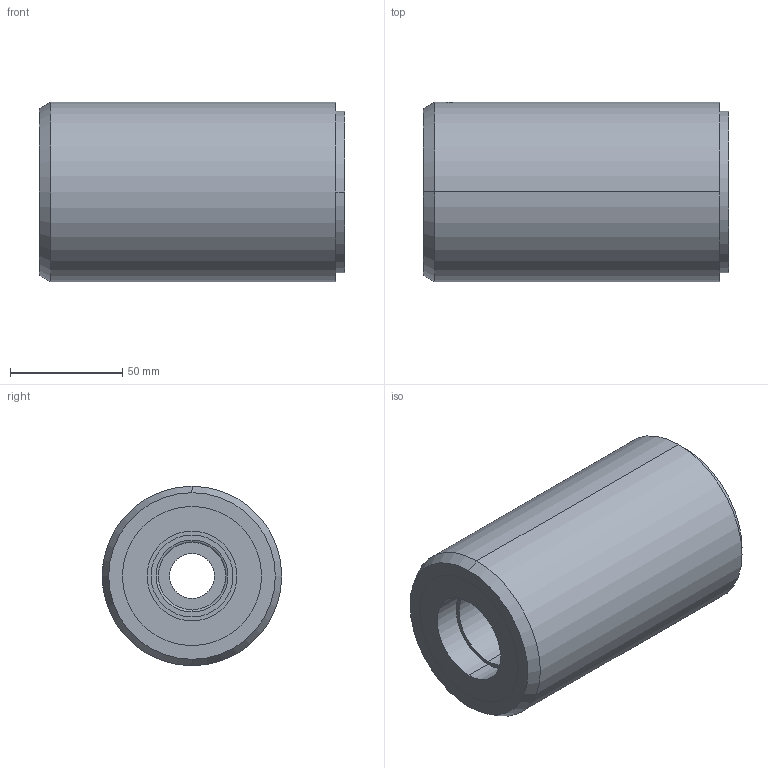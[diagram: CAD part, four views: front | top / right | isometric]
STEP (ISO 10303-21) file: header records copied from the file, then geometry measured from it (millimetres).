
FILE_DESCRIPTION (( 'STEP AP203' ), '1' );
FILE_NAME ('HLM-4.STEP', '2022-09-07T10:47:55', ( '' ), ( '' ), 'SwSTEP 2.0', 'SolidWorks 2019', '' );
FILE_SCHEMA (( 'CONFIG_CONTROL_DESIGN' ));
Length unit declared in the file: millimetre
Products named in the file (6): radial ball bearing_68_din_DIN 625 - 6006 - 14,SI,NC,14_68; HLM-Hülse 4_011.00000672.300_Kunde; HLM-IRO 4_011.00000673.300_Kunde; socket set screw cup point_din_DIN 916 - M8 x 8-C; HLM-4; HLM-ARO 4_011.00000671.300_Kunde
Assembly tree (6 placements, depth 2):
  HLM-4
    HLM-ARO 4_011.00000671.300_Kunde
    HLM-IRO 4_011.00000673.300_Kunde
    HLM-Hülse 4_011.00000672.300_Kunde
    radial ball bearing_68_din_DIN 625 - 6006 - 14,SI,NC,14_68  x2
    socket set screw cup point_din_DIN 916 - M8 x 8-C
Bounding box: 136 x 80 x 80 mm (x, y, z)
Volume: 459514.2 mm3; surface area: 150819.8 mm2
Topology: 6 solids, 6 shells, 150 faces, 306 edges, 187 vertices
Faces by surface type: cylinder 74, plane 38, torus 28, cone 10
Entity records: 4046 total; most frequent: CARTESIAN_POINT 666, DIRECTION 660, ORIENTED_EDGE 496, AXIS2_PLACEMENT_3D 285, EDGE_CURVE 248, VERTEX_POINT 155, CIRCLE 154, EDGE_LOOP 151
